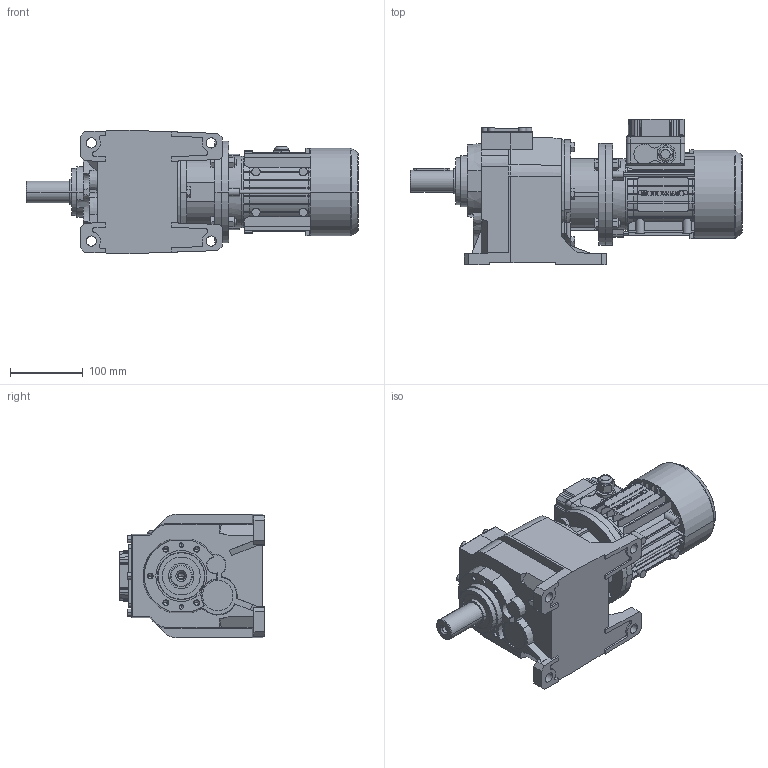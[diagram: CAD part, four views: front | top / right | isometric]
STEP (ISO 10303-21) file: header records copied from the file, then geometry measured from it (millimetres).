
FILE_DESCRIPTION( ( '' ), '1' );
FILE_NAME( '//expscmdclustefs.cadenas.external/client_exchange/iodir/jobs/output/wkb51934942_no0/STEP/H043U61_8363_B530x600T0631_2_03.stp', '2012-12-04T09:18:02', ( '' ), ( '' ), ' ', ' ', ' ' );
FILE_SCHEMA( ( 'CONFIG_CONTROL_DESIGN' ) );
Length unit declared in the file: millimetre
Products named in the file (10): 1; 2; 3; 4; 5; 6; 7; 8; 9; 10
Bounding box: 457 x 200.5 x 170 mm (x, y, z)
Volume: 6016125.5 mm3; surface area: 514441.9 mm2
Topology: 10 solids, 10 shells, 2202 faces, 6098 edges, 4034 vertices
Faces by surface type: plane 1179, cylinder 908, cone 100, torus 11, sphere 4
Entity records: 71759 total; most frequent: CARTESIAN_POINT 13348, DIRECTION 12473, ORIENTED_EDGE 12160, EDGE_CURVE 6080, AXIS2_PLACEMENT_3D 4343, VERTEX_POINT 4034, LINE 3787, VECTOR 3787
